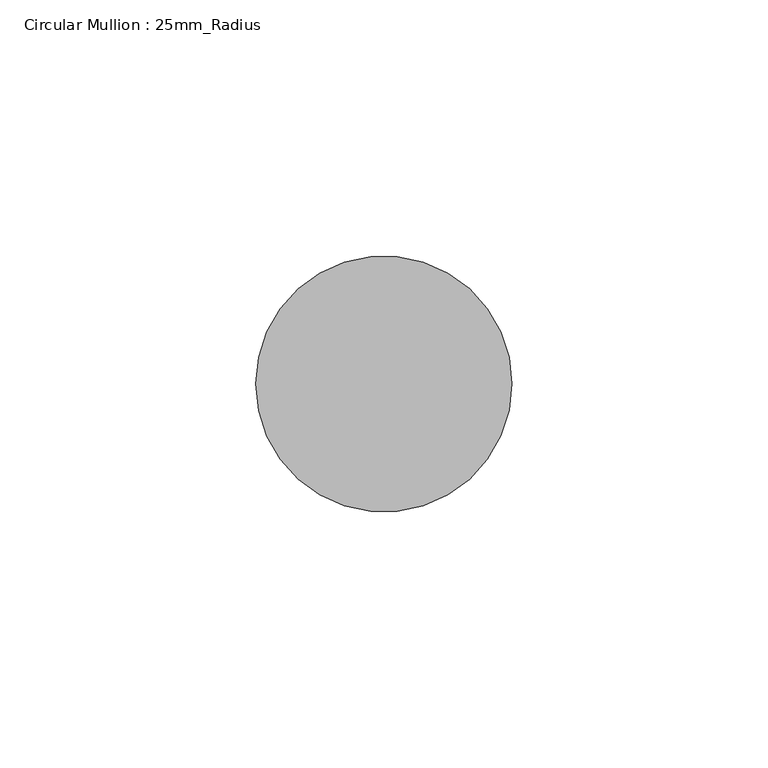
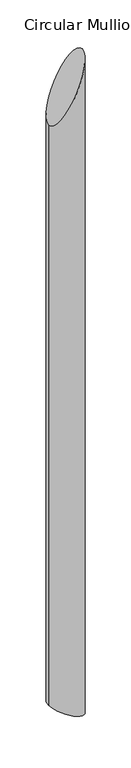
"""IFC4 building model written with IfcOpenShell, lengths in millimetres: member geometry, Circular Mullion : 25mm_Radius."""

from ifc_helpers import new_model, si_unit, frame, origin, place, context, project, spatial, ellipse_curve, source, transform, mapped, element, save
from ifc_brep_helpers import plane_surface, cylinder_surface, advanced_brep


def circular_mullion_25mm_radius_5797e3f6(model_context):
    return source(origin(), model_context, "Body", "AdvancedBrep", [
        advanced_brep(
        [(-50.0, 0.0, -101.725856), (0.0, 0.0, 0.0), (0.0, 0.0, -1030.0), (-50.0, 0.0, -1008.0830473)],
        [
            (0, 1, ellipse_curve(frame((-25.0, 0.0, -50.862928), z_axis=(0.8974516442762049, 0.0, -0.44111284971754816), x_axis=(0.44111284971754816, 0.0, 0.8974516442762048)), 56.6748396, 25.0)),
            (1, 2),
            (2, 3, ellipse_curve(frame((-25.0, 0.0, -1019.0415237), z_axis=(0.4014637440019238, 0.0, 0.9158749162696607), x_axis=(-0.9158749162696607, 0.0, 0.4014637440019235)), 27.2963038, 25.0)),
            (3, 0),
            (1, 0, ellipse_curve(frame((-25.0, 0.0, -50.862928), z_axis=(0.8974516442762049, 0.0, -0.44111284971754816), x_axis=(0.44111284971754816, 0.0, 0.8974516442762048)), 56.6748396, 25.0)),
            (3, 2, ellipse_curve(frame((-25.0, 0.0, -1019.0415237), z_axis=(0.4014637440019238, 0.0, 0.9158749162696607), x_axis=(-0.9158749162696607, 0.0, 0.4014637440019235)), 27.2963038, 25.0)),
        ],
        [
            cylinder_surface(frame((-25.0, 0.0, 0.0), z_axis=(0.0, 0.0, 1.0), x_axis=(1.0, 0.0, 0.0)), 25.0),
            plane_surface(frame((0.0, -304.8, 0.0), z_axis=(-0.8974516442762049, 0.0, 0.44111284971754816), x_axis=(-0.44111284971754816, 0.0, -0.8974516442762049))),
            plane_surface(frame((0.0, -304.8, -1030.0), z_axis=(-0.4014637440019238, 0.0, -0.9158749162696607), x_axis=(-0.9158749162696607, 0.0, 0.4014637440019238))),
        ],
        [
            (0, [[1, 2, 3, 4]]),
            (0, [[5, -4, 6, -2]]),
            (1, [[-1, -5]]),
            (2, [[-6, -3]]),
        ],
    ),
    ])


if __name__ == "__main__":
    model = new_model("IFC4")
    model_context = context("Model", 3, world=origin())
    ifc_project = project(units=[si_unit("LENGTHUNIT", "METRE", prefix="MILLI")], contexts=[model_context])
    site = spatial("IfcSite", under=ifc_project)
    building = spatial("IfcBuilding", under=site)
    placement = place(None, origin())
    circular_mullion_25mm_radius_shape = circular_mullion_25mm_radius_5797e3f6(model_context)
    element("IfcMember", 1, ObjectType="Circular Mullion : 25mm_Radius", at=placement, inside=building, context=model_context, shape_type="MappedRepresentation", body=[
        mapped(circular_mullion_25mm_radius_shape, transform((0.0, 0.0, 0.0), x_axis=(1.0, 0.0, 0.0), y_axis=(0.0, 1.0, 0.0), z_axis=(0.0, 0.0, 1.0))),
    ])
    save(model, "model.ifc")
